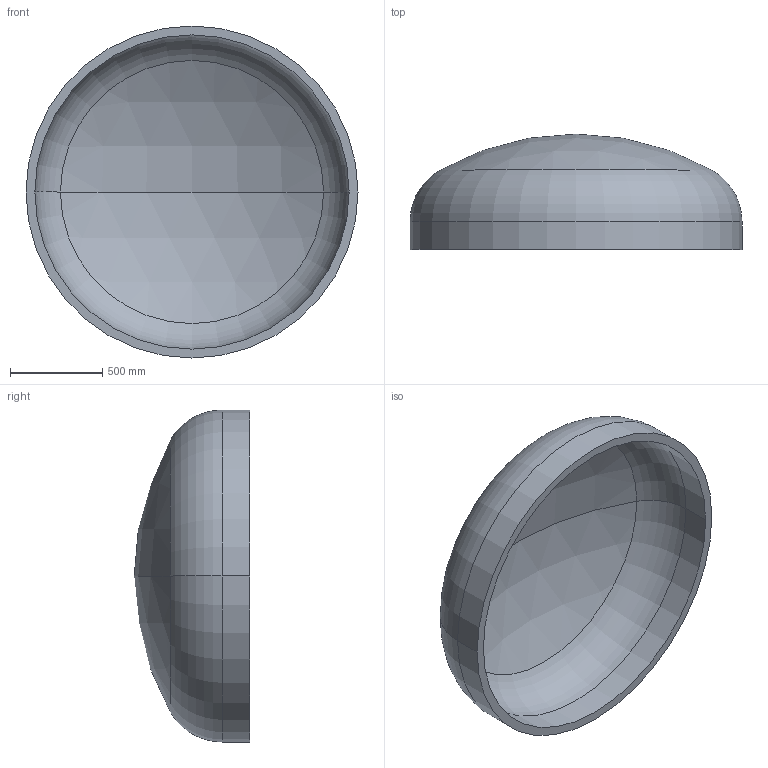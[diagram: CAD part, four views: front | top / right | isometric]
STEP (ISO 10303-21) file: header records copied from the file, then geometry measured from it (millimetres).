
FILE_DESCRIPTION (( 'STEP AP203' ), '1' );
FILE_NAME ('DIN 28013 Korbbogenform_-_Boden DIN 28013 - 1800 x 150 - I - s=48.step', '2016-07-01T12:33:06', ( '' ), ( '' ), 'SwSTEP 2.0', 'SolidWorks 2013', '' );
FILE_SCHEMA (( 'CONFIG_CONTROL_DESIGN' ));
Length unit declared in the file: millimetre
Products named in the file (1): DIN 28013 Korbbogenform_-_Boden DIN 28013 - 1800 x 150 - I - s=48
Bounding box: 1800 x 625.92 x 1800 mm (x, y, z)
Volume: 202731960.5 mm3; surface area: 8716183.4 mm2
Topology: 1 solids, 1 shells, 13 faces, 24 edges, 14 vertices
Faces by surface type: torus 4, cylinder 4, sphere 4, plane 1
Entity records: 407 total; most frequent: DIRECTION 72, CARTESIAN_POINT 52, ORIENTED_EDGE 48, AXIS2_PLACEMENT_3D 34, EDGE_CURVE 24, CIRCLE 20, VERTEX_POINT 14, EDGE_LOOP 14
